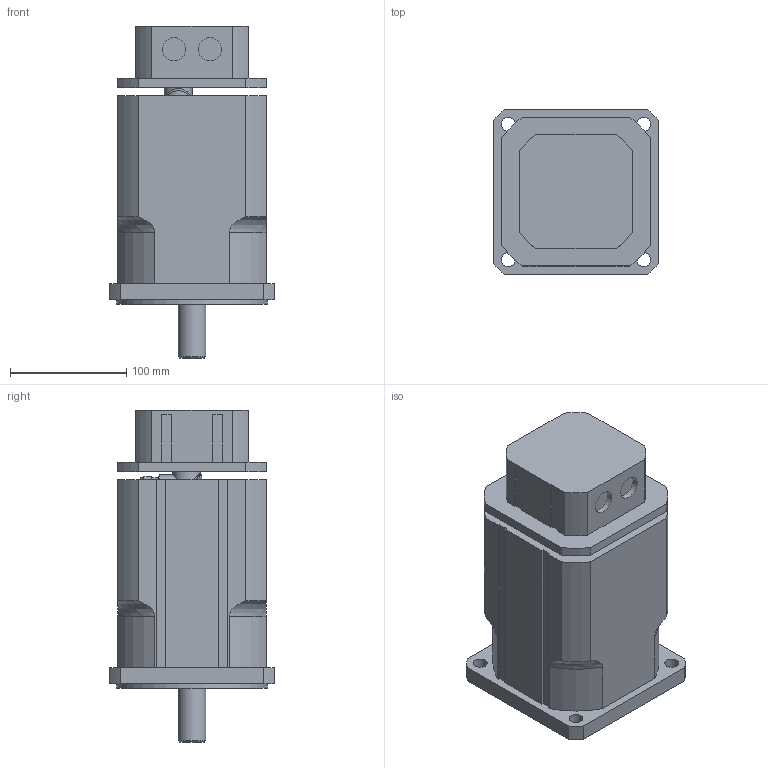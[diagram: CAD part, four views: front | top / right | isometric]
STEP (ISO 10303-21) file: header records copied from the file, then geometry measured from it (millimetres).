
FILE_DESCRIPTION(/* description */ ('Alibre Inc.'),/* implementation_level */ '2;1');
FILE_NAME(/* name */ 'export2',/* time_stamp */ '2013-07-23T12:41:20+02:00',/* author */ (''),/* organization */ (''),/* preprocessor_version */ 'ST-DEVELOPER v12',/* originating_system */ 'Alibre',/* authorisation */ '');
FILE_SCHEMA (('ALIBRE_SCHEMA','CONFIG_CONTROL_DESIGN'));
Length unit declared in the file: millimetre
Products named in the file (6): ID_1
Bounding box: 142 x 142 x 286 mm (x, y, z)
Volume: 3368701.6 mm3; surface area: 215753.6 mm2
Topology: 5 solids, 5 shells, 166 faces, 429 edges, 283 vertices
Faces by surface type: plane 92, cylinder 62, cone 7, torus 4, bspline 1
Full cylindrical faces by diameter (mm): 2.7 x4, 6.647 x1, 12 x4, 20 x5, 22 x2, 24 x2, 130 x1
Entity records: 20323 total; most frequent: CARTESIAN_POINT 4549, ORIENTED_EDGE 2416, DIRECTION 2408, EDGE_CURVE 1208, AXIS2_PLACEMENT_3D 910, VECTOR 873, VERTEX_POINT 844, LINE 828
